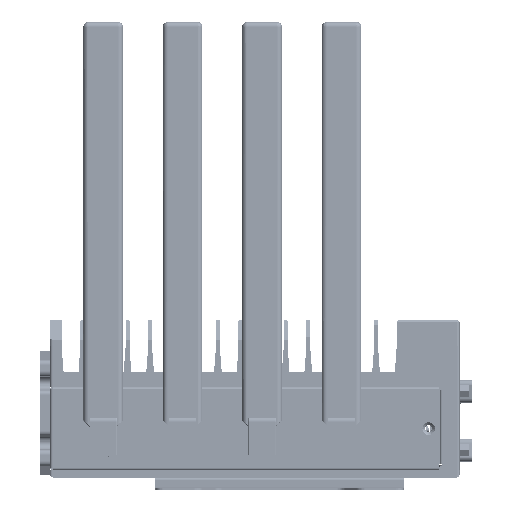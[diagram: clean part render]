
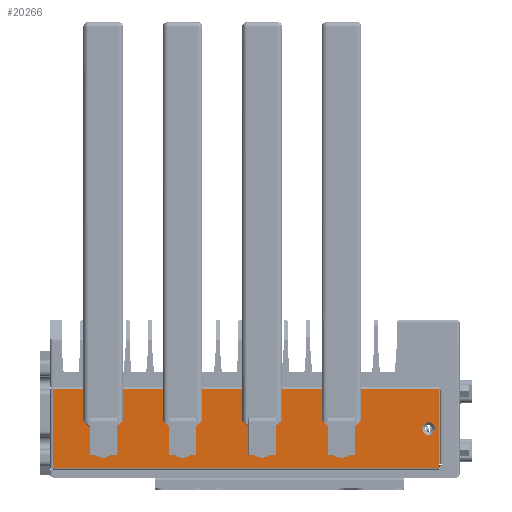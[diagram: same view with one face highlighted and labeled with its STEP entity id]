
A CAD part, left-side view. The second image highlights one B-rep face of the part: STEP entity #20266.
In plain terms, the highlighted planar face has unit normal (-1, 0, 0).
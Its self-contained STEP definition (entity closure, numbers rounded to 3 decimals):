
#14217=DIRECTION('',(0.,-1.,0.));
#14218=VECTOR('',#14217,31.5);
#14219=CARTESIAN_POINT('',(-118.,32.5,-77.25));
#14220=LINE('',#14219,#14218);
#14269=DIRECTION('',(0.,0.,1.));
#14270=VECTOR('',#14269,155.7);
#14271=CARTESIAN_POINT('',(-118.,1.,-77.25));
#14272=LINE('',#14271,#14270);
#14890=DIRECTION('',(0.,-1.,0.));
#14891=VECTOR('',#14890,31.5);
#14892=CARTESIAN_POINT('',(-118.,32.5,78.45));
#14893=LINE('',#14892,#14891);
#14897=DIRECTION('',(0.,0.,1.));
#14898=VECTOR('',#14897,3.273);
#14899=CARTESIAN_POINT('',(-118.,7.25,-58.636));
#14900=LINE('',#14899,#14898);
#14904=CARTESIAN_POINT('',(-118.,10.,-57.));
#14905=DIRECTION('',(-1.,0.,0.));
#14906=DIRECTION('',(0.,-0.859,0.511));
#14907=AXIS2_PLACEMENT_3D('',#14904,#14905,#14906);
#14912=CARTESIAN_POINT('',(-118.,10.,-57.));
#14913=DIRECTION('',(-1.,0.,0.));
#14914=DIRECTION('',(0.,0.,1.));
#14915=AXIS2_PLACEMENT_3D('',#14912,#14913,#14914);
#14920=CARTESIAN_POINT('',(-118.,10.,-57.));
#14921=DIRECTION('',(-1.,0.,0.));
#14922=DIRECTION('',(0.,0.,-1.));
#14923=AXIS2_PLACEMENT_3D('',#14920,#14921,#14922);
#14928=CARTESIAN_POINT('',(-118.,10.,-25.));
#14929=DIRECTION('',(-1.,0.,0.));
#14930=DIRECTION('',(0.,-0.859,0.511));
#14931=AXIS2_PLACEMENT_3D('',#14928,#14929,#14930);
#14936=CARTESIAN_POINT('',(-118.,10.,-25.));
#14937=DIRECTION('',(-1.,0.,0.));
#14938=DIRECTION('',(0.,0.,1.));
#14939=AXIS2_PLACEMENT_3D('',#14936,#14937,#14938);
#14944=CARTESIAN_POINT('',(-118.,10.,-25.));
#14945=DIRECTION('',(-1.,0.,0.));
#14946=DIRECTION('',(0.,0.,-1.));
#14947=AXIS2_PLACEMENT_3D('',#14944,#14945,#14946);
#14952=DIRECTION('',(0.,0.,1.));
#14953=VECTOR('',#14952,3.273);
#14954=CARTESIAN_POINT('',(-118.,7.25,-26.636));
#14955=LINE('',#14954,#14953);
#14959=CARTESIAN_POINT('',(-118.,10.,7.));
#14960=DIRECTION('',(-1.,0.,0.));
#14961=DIRECTION('',(0.,-0.859,0.511));
#14962=AXIS2_PLACEMENT_3D('',#14959,#14960,#14961);
#14967=CARTESIAN_POINT('',(-118.,10.,7.));
#14968=DIRECTION('',(-1.,0.,0.));
#14969=DIRECTION('',(0.,0.,1.));
#14970=AXIS2_PLACEMENT_3D('',#14967,#14968,#14969);
#14975=CARTESIAN_POINT('',(-118.,10.,7.));
#14976=DIRECTION('',(-1.,0.,0.));
#14977=DIRECTION('',(0.,0.,-1.));
#14978=AXIS2_PLACEMENT_3D('',#14975,#14976,#14977);
#14983=DIRECTION('',(0.,0.,1.));
#14984=VECTOR('',#14983,3.273);
#14985=CARTESIAN_POINT('',(-118.,7.25,5.364));
#14986=LINE('',#14985,#14984);
#14990=CARTESIAN_POINT('',(-118.,10.,39.));
#14991=DIRECTION('',(-1.,0.,0.));
#14992=DIRECTION('',(0.,-0.859,0.511));
#14993=AXIS2_PLACEMENT_3D('',#14990,#14991,#14992);
#14998=CARTESIAN_POINT('',(-118.,10.,39.));
#14999=DIRECTION('',(-1.,0.,0.));
#15000=DIRECTION('',(0.,0.,1.));
#15001=AXIS2_PLACEMENT_3D('',#14998,#14999,#15000);
#15006=CARTESIAN_POINT('',(-118.,10.,39.));
#15007=DIRECTION('',(-1.,0.,0.));
#15008=DIRECTION('',(0.,0.,-1.));
#15009=AXIS2_PLACEMENT_3D('',#15006,#15007,#15008);
#15014=DIRECTION('',(0.,0.,1.));
#15015=VECTOR('',#15014,3.273);
#15016=CARTESIAN_POINT('',(-118.,7.25,37.364));
#15017=LINE('',#15016,#15015);
#15021=CARTESIAN_POINT('',(-118.,16.75,74.05));
#15022=DIRECTION('',(-1.,0.,0.));
#15023=DIRECTION('',(0.,0.,-1.));
#15024=AXIS2_PLACEMENT_3D('',#15021,#15022,#15023);
#15029=CARTESIAN_POINT('',(-118.,16.75,74.05));
#15030=DIRECTION('',(-1.,0.,0.));
#15031=DIRECTION('',(0.,0.,1.));
#15032=AXIS2_PLACEMENT_3D('',#15029,#15030,#15031);
#15044=DIRECTION('',(0.,0.,-1.));
#15045=VECTOR('',#15044,155.7);
#15046=CARTESIAN_POINT('',(-118.,32.5,78.45));
#15047=LINE('',#15046,#15045);
#17389=CARTESIAN_POINT('',(-118.,32.5,-77.25));
#17390=VERTEX_POINT('',#17389);
#17393=CARTESIAN_POINT('',(-118.,1.,-77.25));
#17394=VERTEX_POINT('',#17393);
#17400=CARTESIAN_POINT('',(-118.,1.,78.45));
#17402=VERTEX_POINT('',#17400);
#17559=CARTESIAN_POINT('',(-118.,32.5,78.45));
#17560=VERTEX_POINT('',#17559);
#17561=CARTESIAN_POINT('',(-118.,7.25,-58.636));
#17562=CARTESIAN_POINT('',(-118.,7.25,-55.364));
#17563=VERTEX_POINT('',#17561);
#17564=VERTEX_POINT('',#17562);
#17565=CARTESIAN_POINT('',(-118.,10.,-60.2));
#17566=VERTEX_POINT('',#17565);
#17567=CARTESIAN_POINT('',(-118.,10.,-53.8));
#17568=VERTEX_POINT('',#17567);
#17569=CARTESIAN_POINT('',(-118.,10.,-28.2));
#17570=CARTESIAN_POINT('',(-118.,7.25,-26.636));
#17571=VERTEX_POINT('',#17569);
#17572=VERTEX_POINT('',#17570);
#17573=CARTESIAN_POINT('',(-118.,10.,-21.8));
#17574=VERTEX_POINT('',#17573);
#17575=CARTESIAN_POINT('',(-118.,7.25,-23.364));
#17576=VERTEX_POINT('',#17575);
#17577=CARTESIAN_POINT('',(-118.,10.,3.8));
#17578=CARTESIAN_POINT('',(-118.,7.25,5.364));
#17579=VERTEX_POINT('',#17577);
#17580=VERTEX_POINT('',#17578);
#17581=CARTESIAN_POINT('',(-118.,10.,10.2));
#17582=VERTEX_POINT('',#17581);
#17583=CARTESIAN_POINT('',(-118.,7.25,8.636));
#17584=VERTEX_POINT('',#17583);
#17585=CARTESIAN_POINT('',(-118.,10.,35.8));
#17586=CARTESIAN_POINT('',(-118.,7.25,37.364));
#17587=VERTEX_POINT('',#17585);
#17588=VERTEX_POINT('',#17586);
#17589=CARTESIAN_POINT('',(-118.,10.,42.2));
#17590=VERTEX_POINT('',#17589);
#17591=CARTESIAN_POINT('',(-118.,7.25,40.636));
#17592=VERTEX_POINT('',#17591);
#17593=CARTESIAN_POINT('',(-118.,16.75,71.5));
#17594=CARTESIAN_POINT('',(-118.,16.75,76.6));
#17595=VERTEX_POINT('',#17593);
#17596=VERTEX_POINT('',#17594);
#20208=CARTESIAN_POINT('',(-118.,0.,-78.45));
#20209=DIRECTION('',(-1.,0.,0.));
#20210=DIRECTION('',(0.,0.,1.));
#20211=AXIS2_PLACEMENT_3D('',#20208,#20209,#20210);
#20212=PLANE('',#20211);
#20213=ORIENTED_EDGE('',*,*,#19850,.F.);
#20214=ORIENTED_EDGE('',*,*,#19808,.F.);
#20216=ORIENTED_EDGE('',*,*,#20215,.F.);
#20217=ORIENTED_EDGE('',*,*,#20200,.T.);
#20218=EDGE_LOOP('',(#20213,#20214,#20216,#20217));
#20219=FACE_OUTER_BOUND('',#20218,.F.);
#20221=ORIENTED_EDGE('',*,*,#20220,.T.);
#20223=ORIENTED_EDGE('',*,*,#20222,.T.);
#20225=ORIENTED_EDGE('',*,*,#20224,.T.);
#20227=ORIENTED_EDGE('',*,*,#20226,.T.);
#20228=EDGE_LOOP('',(#20221,#20223,#20225,#20227));
#20229=FACE_BOUND('',#20228,.F.);
#20231=ORIENTED_EDGE('',*,*,#20230,.T.);
#20233=ORIENTED_EDGE('',*,*,#20232,.T.);
#20235=ORIENTED_EDGE('',*,*,#20234,.T.);
#20237=ORIENTED_EDGE('',*,*,#20236,.T.);
#20238=EDGE_LOOP('',(#20231,#20233,#20235,#20237));
#20239=FACE_BOUND('',#20238,.F.);
#20241=ORIENTED_EDGE('',*,*,#20240,.T.);
#20243=ORIENTED_EDGE('',*,*,#20242,.T.);
#20245=ORIENTED_EDGE('',*,*,#20244,.T.);
#20247=ORIENTED_EDGE('',*,*,#20246,.T.);
#20248=EDGE_LOOP('',(#20241,#20243,#20245,#20247));
#20249=FACE_BOUND('',#20248,.F.);
#20251=ORIENTED_EDGE('',*,*,#20250,.T.);
#20253=ORIENTED_EDGE('',*,*,#20252,.T.);
#20255=ORIENTED_EDGE('',*,*,#20254,.T.);
#20257=ORIENTED_EDGE('',*,*,#20256,.T.);
#20258=EDGE_LOOP('',(#20251,#20253,#20255,#20257));
#20259=FACE_BOUND('',#20258,.F.);
#20261=ORIENTED_EDGE('',*,*,#20260,.T.);
#20263=ORIENTED_EDGE('',*,*,#20262,.T.);
#20264=EDGE_LOOP('',(#20261,#20263));
#20265=FACE_BOUND('',#20264,.F.);
#14908=CIRCLE('',#14907,3.2);
#14916=CIRCLE('',#14915,3.2);
#14924=CIRCLE('',#14923,3.2);
#14932=CIRCLE('',#14931,3.2);
#14940=CIRCLE('',#14939,3.2);
#14948=CIRCLE('',#14947,3.2);
#14963=CIRCLE('',#14962,3.2);
#14971=CIRCLE('',#14970,3.2);
#14979=CIRCLE('',#14978,3.2);
#14994=CIRCLE('',#14993,3.2);
#15002=CIRCLE('',#15001,3.2);
#15010=CIRCLE('',#15009,3.2);
#15025=CIRCLE('',#15024,2.55);
#15033=CIRCLE('',#15032,2.55);
#19808=EDGE_CURVE('',#17390,#17394,#14220,.T.);
#19850=EDGE_CURVE('',#17394,#17402,#14272,.T.);
#20200=EDGE_CURVE('',#17560,#17402,#14893,.T.);
#20215=EDGE_CURVE('',#17560,#17390,#15047,.T.);
#20220=EDGE_CURVE('',#17563,#17564,#14900,.T.);
#20222=EDGE_CURVE('',#17564,#17568,#14908,.T.);
#20224=EDGE_CURVE('',#17568,#17566,#14916,.T.);
#20226=EDGE_CURVE('',#17566,#17563,#14924,.T.);
#20230=EDGE_CURVE('',#17576,#17574,#14932,.T.);
#20232=EDGE_CURVE('',#17574,#17571,#14940,.T.);
#20234=EDGE_CURVE('',#17571,#17572,#14948,.T.);
#20236=EDGE_CURVE('',#17572,#17576,#14955,.T.);
#20240=EDGE_CURVE('',#17584,#17582,#14963,.T.);
#20242=EDGE_CURVE('',#17582,#17579,#14971,.T.);
#20244=EDGE_CURVE('',#17579,#17580,#14979,.T.);
#20246=EDGE_CURVE('',#17580,#17584,#14986,.T.);
#20250=EDGE_CURVE('',#17592,#17590,#14994,.T.);
#20252=EDGE_CURVE('',#17590,#17587,#15002,.T.);
#20254=EDGE_CURVE('',#17587,#17588,#15010,.T.);
#20256=EDGE_CURVE('',#17588,#17592,#15017,.T.);
#20260=EDGE_CURVE('',#17595,#17596,#15025,.T.);
#20262=EDGE_CURVE('',#17596,#17595,#15033,.T.);
#20266=ADVANCED_FACE('',(#20219,#20229,#20239,#20249,#20259,#20265),#20212,.T.);
